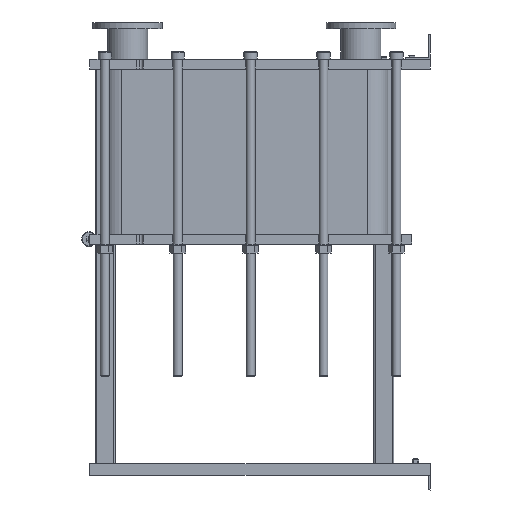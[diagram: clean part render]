
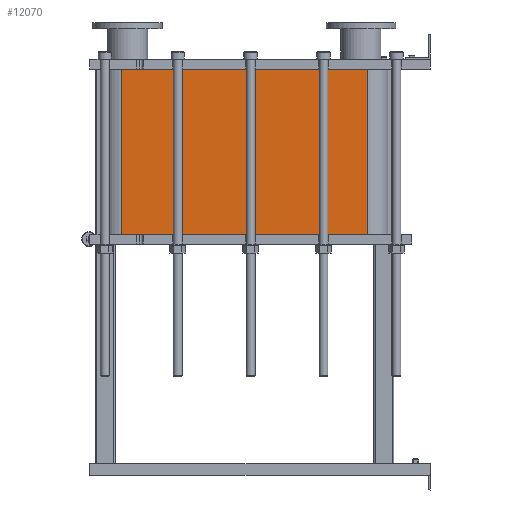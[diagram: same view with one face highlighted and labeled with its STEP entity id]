
A CAD part, left-side view. The second image highlights one B-rep face of the part: STEP entity #12070.
In plain terms, the highlighted planar face has unit normal (-1, 0, 0).
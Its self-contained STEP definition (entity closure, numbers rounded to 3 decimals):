
#1064=LINE('',#21140,#2164);
#1065=LINE('',#21144,#2165);
#1066=LINE('',#21146,#2166);
#1067=LINE('',#21147,#2167);
#2164=VECTOR('',#15790,10.);
#2165=VECTOR('',#15795,10.);
#2166=VECTOR('',#15796,10.);
#2167=VECTOR('',#15797,10.);
#3304=FACE_OUTER_BOUND('',#4091,.T.);
#4091=EDGE_LOOP('',(#9793,#9794,#9795,#9796));
#5677=VERTEX_POINT('',#21137);
#5678=VERTEX_POINT('',#21139);
#5679=VERTEX_POINT('',#21143);
#5680=VERTEX_POINT('',#21145);
#7118=EDGE_CURVE('',#5678,#5677,#1064,.T.);
#7120=EDGE_CURVE('',#5677,#5679,#1065,.T.);
#7121=EDGE_CURVE('',#5680,#5679,#1066,.T.);
#7122=EDGE_CURVE('',#5680,#5678,#1067,.T.);
#9793=ORIENTED_EDGE('',*,*,#7120,.T.);
#9794=ORIENTED_EDGE('',*,*,#7121,.F.);
#9795=ORIENTED_EDGE('',*,*,#7122,.T.);
#9796=ORIENTED_EDGE('',*,*,#7118,.T.);
#11441=PLANE('',#13191);
#12070=ADVANCED_FACE('',(#3304),#11441,.T.);
#13191=AXIS2_PLACEMENT_3D('',#21142,#15793,#15794);
#15790=DIRECTION('',(0.,0.,-1.));
#15793=DIRECTION('center_axis',(-1.,0.,0.));
#15794=DIRECTION('ref_axis',(0.,1.,0.));
#15795=DIRECTION('',(0.,-1.,0.));
#15796=DIRECTION('',(0.,0.,-1.));
#15797=DIRECTION('',(0.,1.,0.));
#21137=CARTESIAN_POINT('',(-248.152,1243.818,-665.85));
#21139=CARTESIAN_POINT('',(-248.152,1243.818,0.));
#21140=CARTESIAN_POINT('',(-248.152,1243.818,0.));
#21142=CARTESIAN_POINT('Origin',(-248.152,251.818,0.));
#21143=CARTESIAN_POINT('',(-248.152,251.818,-665.85));
#21144=CARTESIAN_POINT('',(-248.152,499.818,-665.85));
#21145=CARTESIAN_POINT('',(-248.152,251.818,0.));
#21146=CARTESIAN_POINT('',(-248.152,251.818,0.));
#21147=CARTESIAN_POINT('',(-248.152,251.818,0.));
